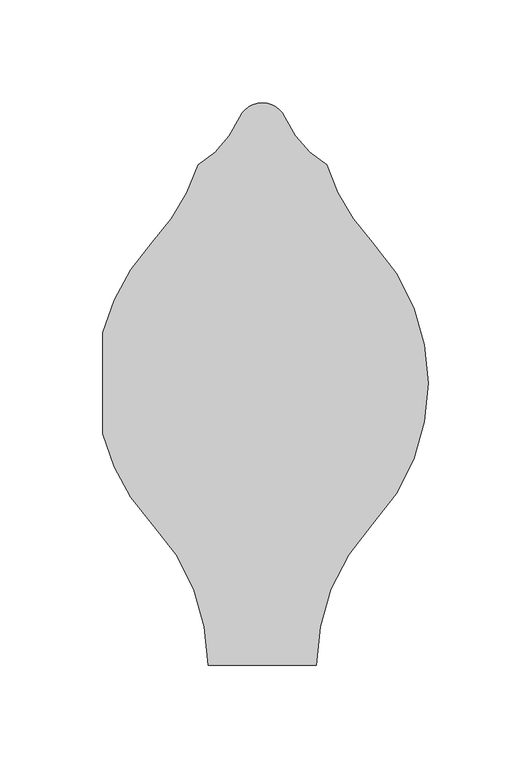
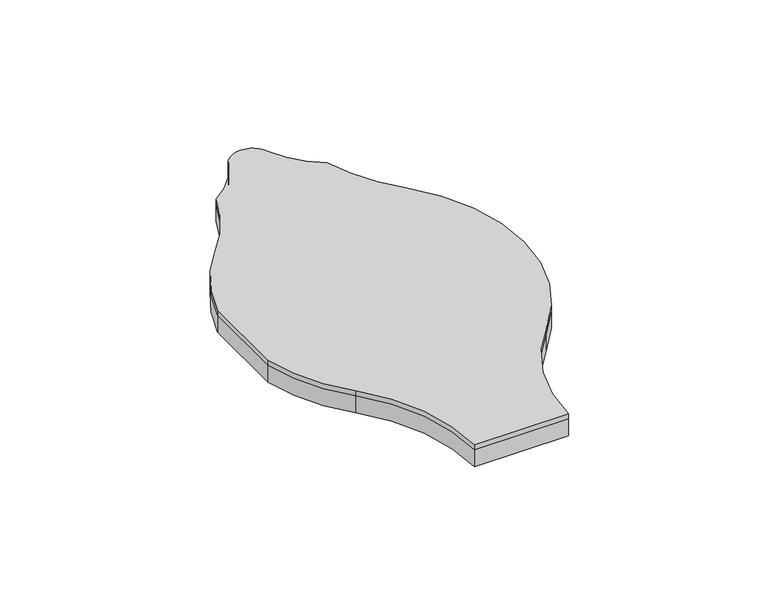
"""IFC4 building model written with IfcOpenShell, lengths in millimetres: proxy geometry, FilzFelt_Fish_Block : Fish Block."""

from ifc_helpers import new_model, si_unit, frame, origin, place, context, project, spatial, polyline, circle_curve, source, transform, mapped, element, save
from ifc_brep_helpers import plane_surface, cylinder_surface, revolved_surface, advanced_brep


def specialty_equipment_77375bea(model_context):
    return source(origin(), model_context, "Body", "AdvancedBrep", [
        advanced_brep(
        [(53.5486457, 68.6120133, 10.0210937), (53.5486457, -68.6120133, 10.0210937), (26.3830688, -137.2240266, 10.0210937), (-26.3830688, -137.2240266, 10.0210937), (-53.5486457, -68.6120133, 10.0210937), (-77.6593049, -24.5571251, 10.0210937), (-77.6593049, 24.5571251, 10.0210937), (-53.5486457, 68.6120133, 10.0210937), (-31.2619065, 106.3338576, 10.0210937), (-11.0103348, 129.4133496, 10.0210937), (11.0103348, 129.4133496, 10.0210937), (31.2619065, 106.3338576, 10.0210937), (53.5486457, 68.6120133, 12.9976563), (31.2619065, 106.3338576, 12.9976563), (11.0103348, 129.4133496, 12.9976563), (0.0, 136.5838795, 12.9976563), (-11.0103348, 129.4133496, 12.9976563), (-31.2619065, 106.3338576, 12.9976563), (-53.5486457, 68.6120133, 12.9976563), (-77.6593049, 24.5571251, 12.9976563), (-77.6593049, -24.5571251, 12.9976563), (-53.5486457, -68.6120133, 12.9976563), (-26.3830688, -137.2240266, 12.9976563), (26.3830688, -137.2240266, 12.9976563), (53.5486457, -68.6120133, 12.9976563), (80.7142226, 0.0, 12.9976563)],
        [
            (0, 1, circle_curve(frame((-19.5151403, 0.0, 10.0210937), z_axis=(0.0, 0.0, -1.0), x_axis=(-1.0, 0.0, 0.0)), 100.2293629)),
            (1, 2, circle_curve(frame((126.6124317, -137.2240266, 10.0210937), z_axis=(0.0, 0.0, 1.0), x_axis=(-1.0, 0.0, 0.0)), 100.2293629)),
            (2, 3),
            (3, 4, circle_curve(frame((-126.6124317, -137.2240266, 10.0210937), z_axis=(0.0, 0.0, 1.0), x_axis=(-1.0, 0.0, 0.0)), 100.2293629)),
            (4, 5, circle_curve(frame((19.5151403, 0.0, 10.0210937), z_axis=(0.0, 0.0, -1.0), x_axis=(-1.0, 0.0, 0.0)), 100.2293629)),
            (5, 6),
            (6, 7, circle_curve(frame((19.5151403, 0.0, 10.0210937), z_axis=(0.0, 0.0, -1.0), x_axis=(-1.0, 0.0, 0.0)), 100.2293629)),
            (7, 8, circle_curve(frame((-126.6124317, 137.2240266, 10.0210937), z_axis=(0.0, 0.0, 1.0), x_axis=(-1.0, 0.0, 0.0)), 100.2293629)),
            (8, 9, circle_curve(frame((-57.9263497, 150.1559416, 10.0210937), z_axis=(0.0, 0.0, 1.0), x_axis=(-1.0, 0.0, 0.0)), 51.2968574)),
            (9, 10, circle_curve(frame((0.0, 124.5454408, 10.0210937), z_axis=(0.0, 0.0, -1.0), x_axis=(-1.0, 0.0, 0.0)), 12.0384388)),
            (10, 11, circle_curve(frame((57.9263497, 150.1559416, 10.0210937), z_axis=(0.0, 0.0, 1.0), x_axis=(-1.0, 0.0, 0.0)), 51.2968574)),
            (11, 0, circle_curve(frame((126.6124317, 137.2240266, 10.0210937), z_axis=(0.0, 0.0, 1.0), x_axis=(-1.0, 0.0, 0.0)), 100.2293629)),
            (12, 13, circle_curve(frame((126.6124317, 137.2240266, 12.9976563), z_axis=(0.0, 0.0, -1.0), x_axis=(-1.0, 0.0, 0.0)), 100.2293629)),
            (13, 14, circle_curve(frame((57.9263497, 150.1559416, 12.9976563), z_axis=(0.0, 0.0, -1.0), x_axis=(-1.0, 0.0, 0.0)), 51.2968574)),
            (14, 15, circle_curve(frame((0.0, 124.5454408, 12.9976563), z_axis=(0.0, 0.0, 1.0), x_axis=(-1.0, 0.0, 0.0)), 12.0384388)),
            (15, 16, circle_curve(frame((0.0, 124.5454408, 12.9976563), z_axis=(0.0, 0.0, 1.0), x_axis=(-1.0, 0.0, 0.0)), 12.0384388)),
            (16, 17, circle_curve(frame((-57.9263497, 150.1559416, 12.9976563), z_axis=(0.0, 0.0, -1.0), x_axis=(-1.0, 0.0, 0.0)), 51.2968574)),
            (17, 18, circle_curve(frame((-126.6124317, 137.2240266, 12.9976563), z_axis=(0.0, 0.0, -1.0), x_axis=(-1.0, 0.0, 0.0)), 100.2293629)),
            (18, 19, circle_curve(frame((19.5151403, 0.0, 12.9976563), z_axis=(0.0, 0.0, 1.0), x_axis=(-1.0, 0.0, 0.0)), 100.2293629)),
            (19, 20),
            (20, 21, circle_curve(frame((19.5151403, 0.0, 12.9976563), z_axis=(0.0, 0.0, 1.0), x_axis=(-1.0, 0.0, 0.0)), 100.2293629)),
            (21, 22, circle_curve(frame((-126.6124317, -137.2240266, 12.9976563), z_axis=(0.0, 0.0, -1.0), x_axis=(-1.0, 0.0, 0.0)), 100.2293629)),
            (22, 23),
            (23, 24, circle_curve(frame((126.6124317, -137.2240266, 12.9976563), z_axis=(0.0, 0.0, -1.0), x_axis=(-1.0, 0.0, 0.0)), 100.2293629)),
            (24, 25, circle_curve(frame((-19.5151403, 0.0, 12.9976563), z_axis=(0.0, 0.0, 1.0), x_axis=(-1.0, 0.0, 0.0)), 100.2293629)),
            (25, 12, circle_curve(frame((-19.5151403, 0.0, 12.9976563), z_axis=(0.0, 0.0, 1.0), x_axis=(-1.0, 0.0, 0.0)), 100.2293629)),
            (0, 12),
            (24, 1),
            (23, 2),
            (21, 4),
            (3, 22),
            (20, 5),
            (18, 7),
            (6, 19),
            (17, 8),
            (16, 9),
            (14, 10),
            (13, 11),
        ],
        [
            plane_surface(frame((0.0, 0.0, 10.0210937), z_axis=(0.0, 0.0, -1.0), x_axis=(0.0, -1.0, 0.0))),
            plane_surface(frame((0.0, 0.0, 12.9976563), z_axis=(0.0, 0.0, 1.0), x_axis=(0.0, -1.0, 0.0))),
            cylinder_surface(frame((-19.5151403, 0.0, 10.0210937), z_axis=(0.0, 0.0, -1.0), x_axis=(-1.0, 0.0, 0.0)), 100.2293629),
            revolved_surface(polyline([(26.383068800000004, -137.2240266, 12.9976563), (26.383068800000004, -137.2240266, 10.0210937)]), (126.6124317, -137.2240266, 10.0210937), (0.0, 0.0, 1.0)),
            revolved_surface(polyline([(-226.84179460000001, -137.2240266, 12.9976563), (-226.84179460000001, -137.2240266, 10.0210937)]), (-126.6124317, -137.2240266, 10.0210937), (0.0, 0.0, 1.0)),
            cylinder_surface(frame((19.5151403, 0.0, 10.0210937), z_axis=(0.0, 0.0, -1.0), x_axis=(-1.0, 0.0, 0.0)), 100.2293629),
            revolved_surface(polyline([(-226.84179460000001, 137.2240266, 12.9976563), (-226.84179460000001, 137.2240266, 10.0210937)]), (-126.6124317, 137.2240266, 10.0210937), (0.0, 0.0, 1.0)),
            revolved_surface(polyline([(-109.2232071, 150.1559416, 12.9976563), (-109.2232071, 150.1559416, 10.0210937)]), (-57.9263497, 150.1559416, 10.0210937), (0.0, 0.0, 1.0)),
            cylinder_surface(frame((0.0, 124.5454408, 10.0210937), z_axis=(0.0, 0.0, -1.0), x_axis=(-1.0, 0.0, 0.0)), 12.0384388),
            revolved_surface(polyline([(6.629492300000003, 150.1559416, 12.9976563), (6.629492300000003, 150.1559416, 10.0210937)]), (57.9263497, 150.1559416, 10.0210937), (0.0, 0.0, 1.0)),
            revolved_surface(polyline([(26.383068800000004, 137.2240266, 12.9976563), (26.383068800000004, 137.2240266, 10.0210937)]), (126.6124317, 137.2240266, 10.0210937), (0.0, 0.0, 1.0)),
            plane_surface(frame((-77.6593049, 168.3338795, 12.9976562), z_axis=(-1.0, 0.0, 0.0), x_axis=(0.0, -1.0, 0.0))),
            plane_surface(frame((112.4642226, -137.2240266, 12.9976562), z_axis=(0.0, -1.0, 0.0), x_axis=(0.0, 0.0, -1.0))),
        ],
        [
            (0, [[1, 2, 3, 4, 5, 6, 7, 8, 9, 10, 11, 12]]),
            (1, [[13, 14, 15, 16, 17, 18, 19, 20, 21, 22, 23, 24, 25, 26]]),
            (2, [[-1, 27, -26, -25, 28]]),
            (3, [[-28, -24, 29, -2]]),
            (4, [[30, -4, 31, -22]]),
            (5, [[-30, -21, 32, -5]]),
            (5, [[33, -7, 34, -19]]),
            (6, [[-8, -33, -18, 35]]),
            (7, [[-9, -35, -17, 36]]),
            (8, [[-10, -36, -16, -15, 37]]),
            (9, [[-11, -37, -14, 38]]),
            (10, [[-12, -38, -13, -27]]),
            (11, [[-6, -32, -20, -34]]),
            (12, [[-3, -29, -23, -31]]),
        ],
    ),
        advanced_brep(
        [(-53.5486457, 68.6120133, 0.0), (-31.2619065, 106.3338576, 0.0), (-11.0103348, 129.4133496, 0.0), (0.0, 136.5838795, 0.0), (11.0103348, 129.4133496, 0.0), (31.2619065, 106.3338576, 0.0), (53.5486457, 68.6120133, 0.0), (80.7142226, 0.0, 0.0), (53.5486457, -68.6120133, 0.0), (26.3830688, -137.2240266, 0.0), (-26.3830688, -137.2240266, 0.0), (-53.5486457, -68.6120133, 0.0), (-77.6593049, -24.5571251, 0.0), (-77.6593049, 24.5571251, 0.0), (53.5486457, -68.6120133, 10.0210937), (53.5486457, 68.6120133, 10.0210937), (31.2619065, 106.3338576, 10.0210937), (11.0103348, 129.4133496, 10.0210937), (-11.0103348, 129.4133496, 10.0210937), (-31.2619065, 106.3338576, 10.0210937), (-53.5486457, 68.6120133, 10.0210937), (-77.6593049, 24.5571251, 10.0210937), (-77.6593049, -24.5571251, 10.0210937), (-53.5486457, -68.6120133, 10.0210937), (-26.3830688, -137.2240266, 10.0210937), (26.3830688, -137.2240266, 10.0210937)],
        [
            (0, 1, circle_curve(frame((-126.6124317, 137.2240266, 0.0), z_axis=(0.0, 0.0, 1.0), x_axis=(-1.0, 0.0, 0.0)), 100.2293629)),
            (1, 2, circle_curve(frame((-57.9263497, 150.1559416, 0.0), z_axis=(0.0, 0.0, 1.0), x_axis=(-1.0, 0.0, 0.0)), 51.2968574)),
            (2, 3, circle_curve(frame((0.0, 124.5454408, 0.0), z_axis=(0.0, 0.0, -1.0), x_axis=(-1.0, 0.0, 0.0)), 12.0384388)),
            (3, 4, circle_curve(frame((0.0, 124.5454408, 0.0), z_axis=(0.0, 0.0, -1.0), x_axis=(-1.0, 0.0, 0.0)), 12.0384388)),
            (4, 5, circle_curve(frame((57.9263497, 150.1559416, 0.0), z_axis=(0.0, 0.0, 1.0), x_axis=(-1.0, 0.0, 0.0)), 51.2968574)),
            (5, 6, circle_curve(frame((126.6124317, 137.2240266, 0.0), z_axis=(0.0, 0.0, 1.0), x_axis=(-1.0, 0.0, 0.0)), 100.2293629)),
            (6, 7, circle_curve(frame((-19.5151403, 0.0, 0.0), z_axis=(0.0, 0.0, -1.0), x_axis=(-1.0, 0.0, 0.0)), 100.2293629)),
            (7, 8, circle_curve(frame((-19.5151403, 0.0, 0.0), z_axis=(0.0, 0.0, -1.0), x_axis=(-1.0, 0.0, 0.0)), 100.2293629)),
            (8, 9, circle_curve(frame((126.6124317, -137.2240266, 0.0), z_axis=(0.0, 0.0, 1.0), x_axis=(-1.0, 0.0, 0.0)), 100.2293629)),
            (9, 10),
            (10, 11, circle_curve(frame((-126.6124317, -137.2240266, 0.0), z_axis=(0.0, 0.0, 1.0), x_axis=(-1.0, 0.0, 0.0)), 100.2293629)),
            (11, 12, circle_curve(frame((19.5151403, 0.0, 0.0), z_axis=(0.0, 0.0, -1.0), x_axis=(-1.0, 0.0, 0.0)), 100.2293629)),
            (12, 13),
            (13, 0, circle_curve(frame((19.5151403, 0.0, 0.0), z_axis=(0.0, 0.0, -1.0), x_axis=(-1.0, 0.0, 0.0)), 100.2293629)),
            (14, 15, circle_curve(frame((-19.5151403, 0.0, 10.0210937), z_axis=(0.0, 0.0, 1.0), x_axis=(-1.0, 0.0, 0.0)), 100.2293629)),
            (15, 16, circle_curve(frame((126.6124317, 137.2240266, 10.0210937), z_axis=(0.0, 0.0, -1.0), x_axis=(-1.0, 0.0, 0.0)), 100.2293629)),
            (16, 17, circle_curve(frame((57.9263497, 150.1559416, 10.0210937), z_axis=(0.0, 0.0, -1.0), x_axis=(-1.0, 0.0, 0.0)), 51.2968574)),
            (17, 18, circle_curve(frame((0.0, 124.5454408, 10.0210937), z_axis=(0.0, 0.0, 1.0), x_axis=(-1.0, 0.0, 0.0)), 12.0384388)),
            (18, 19, circle_curve(frame((-57.9263497, 150.1559416, 10.0210937), z_axis=(0.0, 0.0, -1.0), x_axis=(-1.0, 0.0, 0.0)), 51.2968574)),
            (19, 20, circle_curve(frame((-126.6124317, 137.2240266, 10.0210937), z_axis=(0.0, 0.0, -1.0), x_axis=(-1.0, 0.0, 0.0)), 100.2293629)),
            (20, 21, circle_curve(frame((19.5151403, 0.0, 10.0210937), z_axis=(0.0, 0.0, 1.0), x_axis=(-1.0, 0.0, 0.0)), 100.2293629)),
            (21, 22),
            (22, 23, circle_curve(frame((19.5151403, 0.0, 10.0210937), z_axis=(0.0, 0.0, 1.0), x_axis=(-1.0, 0.0, 0.0)), 100.2293629)),
            (23, 24, circle_curve(frame((-126.6124317, -137.2240266, 10.0210937), z_axis=(0.0, 0.0, -1.0), x_axis=(-1.0, 0.0, 0.0)), 100.2293629)),
            (24, 25),
            (25, 14, circle_curve(frame((126.6124317, -137.2240266, 10.0210937), z_axis=(0.0, 0.0, -1.0), x_axis=(-1.0, 0.0, 0.0)), 100.2293629)),
            (23, 11),
            (10, 24),
            (22, 12),
            (20, 0),
            (13, 21),
            (19, 1),
            (18, 2),
            (17, 4),
            (16, 5),
            (15, 6),
            (14, 8),
            (25, 9),
        ],
        [
            plane_surface(frame((0.0, 0.0, 0.0), z_axis=(0.0, 0.0, -1.0), x_axis=(0.0, -1.0, 0.0))),
            plane_surface(frame((0.0, 0.0, 10.0210937), z_axis=(0.0, 0.0, 1.0), x_axis=(0.0, -1.0, 0.0))),
            revolved_surface(polyline([(-226.84179460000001, -137.2240266, 10.0210937), (-226.84179460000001, -137.2240266, 0.0)]), (-126.6124317, -137.2240266, 0.0), (0.0, 0.0, 1.0)),
            cylinder_surface(frame((19.5151403, 0.0, 0.0), z_axis=(0.0, 0.0, -1.0), x_axis=(-1.0, 0.0, 0.0)), 100.2293629),
            revolved_surface(polyline([(-226.84179460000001, 137.2240266, 10.0210937), (-226.84179460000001, 137.2240266, 0.0)]), (-126.6124317, 137.2240266, 0.0), (0.0, 0.0, 1.0)),
            revolved_surface(polyline([(-109.2232071, 150.1559416, 10.0210937), (-109.2232071, 150.1559416, 0.0)]), (-57.9263497, 150.1559416, 0.0), (0.0, 0.0, 1.0)),
            cylinder_surface(frame((0.0, 124.5454408, 0.0), z_axis=(0.0, 0.0, -1.0), x_axis=(-1.0, 0.0, 0.0)), 12.0384388),
            revolved_surface(polyline([(6.629492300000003, 150.1559416, 10.0210937), (6.629492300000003, 150.1559416, 0.0)]), (57.9263497, 150.1559416, 0.0), (0.0, 0.0, 1.0)),
            revolved_surface(polyline([(26.383068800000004, 137.2240266, 10.0210937), (26.383068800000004, 137.2240266, 0.0)]), (126.6124317, 137.2240266, 0.0), (0.0, 0.0, 1.0)),
            cylinder_surface(frame((-19.5151403, 0.0, 0.0), z_axis=(0.0, 0.0, -1.0), x_axis=(-1.0, 0.0, 0.0)), 100.2293629),
            revolved_surface(polyline([(26.383068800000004, -137.2240266, 10.0210937), (26.383068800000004, -137.2240266, 0.0)]), (126.6124317, -137.2240266, 0.0), (0.0, 0.0, 1.0)),
            plane_surface(frame((-77.6593049, 168.3338795, 12.9976562), z_axis=(-1.0, 0.0, 0.0), x_axis=(0.0, -1.0, 0.0))),
            plane_surface(frame((112.4642226, -137.2240266, 12.9976562), z_axis=(0.0, -1.0, 0.0), x_axis=(0.0, 0.0, -1.0))),
        ],
        [
            (0, [[1, 2, 3, 4, 5, 6, 7, 8, 9, 10, 11, 12, 13, 14]]),
            (1, [[15, 16, 17, 18, 19, 20, 21, 22, 23, 24, 25, 26]]),
            (2, [[27, -11, 28, -24]]),
            (3, [[-27, -23, 29, -12]]),
            (3, [[30, -14, 31, -21]]),
            (4, [[-1, -30, -20, 32]]),
            (5, [[-2, -32, -19, 33]]),
            (6, [[-18, 34, -4, -3, -33]]),
            (7, [[-5, -34, -17, 35]]),
            (8, [[-6, -35, -16, 36]]),
            (9, [[-15, 37, -8, -7, -36]]),
            (10, [[-37, -26, 38, -9]]),
            (11, [[-13, -29, -22, -31]]),
            (12, [[-10, -38, -25, -28]]),
        ],
    ),
    ])


if __name__ == "__main__":
    model = new_model("IFC4")
    model_context = context("Model", 3, world=origin())
    ifc_project = project(units=[si_unit("LENGTHUNIT", "METRE", prefix="MILLI")], contexts=[model_context])
    site = spatial("IfcSite", under=ifc_project)
    building = spatial("IfcBuilding", under=site)
    placement = place(None, origin())
    specialty_equipment_shape = specialty_equipment_77375bea(model_context)
    element("IfcBuildingElementProxy", 1, Name="FilzFelt_Fish_Block : Fish Block", ObjectType="FilzFelt_Fish_Block : Fish Block", at=placement, inside=building, context=model_context, shape_type="MappedRepresentation", body=[
        mapped(specialty_equipment_shape, transform((0.0, 0.0, 0.0), x_axis=(1.0, 0.0, 0.0), y_axis=(0.0, 1.0, 0.0), z_axis=(0.0, 0.0, 1.0))),
    ])
    save(model, "model.ifc")
